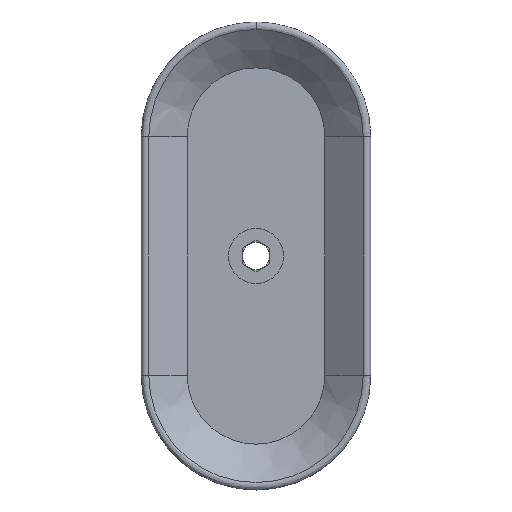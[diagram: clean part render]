
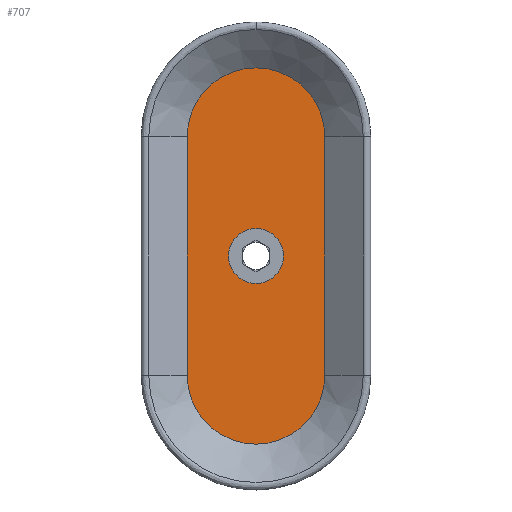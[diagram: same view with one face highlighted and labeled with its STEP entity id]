
A CAD part, front view. The second image highlights one B-rep face of the part: STEP entity #707.
In plain terms, the highlighted planar face has unit normal (0, -1, 0).
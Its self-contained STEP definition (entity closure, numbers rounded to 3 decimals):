
#2 = CIRCLE ( 'NONE', #1078, 15. ) ;
#97 = DIRECTION ( 'NONE',  ( 0., 1., 0. ) ) ;
#110 = PLANE ( 'NONE',  #2926 ) ;
#211 = CARTESIAN_POINT ( 'NONE',  ( -15., 5., 26. ) ) ;
#333 = ORIENTED_EDGE ( 'NONE', *, *, #373, .F. ) ;
#373 = EDGE_CURVE ( 'NONE', #4318, #5460, #2, .T. ) ;
#388 = CARTESIAN_POINT ( 'NONE',  ( -15., 5., -26. ) ) ;
#587 = LINE ( 'NONE', #5107, #7059 ) ;
#666 = CARTESIAN_POINT ( 'NONE',  ( 0., 5., 6. ) ) ;
#707 = ADVANCED_FACE ( 'NONE', ( #5853, #4184 ), #110, .T. ) ;
#718 = ORIENTED_EDGE ( 'NONE', *, *, #3973, .T. ) ;
#720 = ORIENTED_EDGE ( 'NONE', *, *, #2884, .T. ) ;
#726 = VERTEX_POINT ( 'NONE', #6506 ) ;
#824 = DIRECTION ( 'NONE',  ( 0., 0., -1. ) ) ;
#1036 = ORIENTED_EDGE ( 'NONE', *, *, #3777, .F. ) ;
#1066 = EDGE_LOOP ( 'NONE', ( #718, #6790 ) ) ;
#1078 = AXIS2_PLACEMENT_3D ( 'NONE', #7175, #6469, #6096 ) ;
#1349 = CARTESIAN_POINT ( 'NONE',  ( 0., 5., -6. ) ) ;
#1493 = CARTESIAN_POINT ( 'NONE',  ( 0., 5., 26. ) ) ;
#1598 = CARTESIAN_POINT ( 'NONE',  ( 0., 5., 0. ) ) ;
#1720 = CIRCLE ( 'NONE', #4444, 6. ) ;
#1735 = CIRCLE ( 'NONE', #4283, 15. ) ;
#1830 = EDGE_CURVE ( 'NONE', #5460, #7948, #1735, .T. ) ;
#2082 = DIRECTION ( 'NONE',  ( 0., 1., 0. ) ) ;
#2088 = DIRECTION ( 'NONE',  ( 0., 0., -1. ) ) ;
#2109 = ORIENTED_EDGE ( 'NONE', *, *, #4029, .T. ) ;
#2132 = DIRECTION ( 'NONE',  ( 0., 1., 0. ) ) ;
#2162 = VERTEX_POINT ( 'NONE', #666 ) ;
#2226 = DIRECTION ( 'NONE',  ( 0., 0., 1. ) ) ;
#2569 = AXIS2_PLACEMENT_3D ( 'NONE', #3824, #97, #4451 ) ;
#2588 = EDGE_LOOP ( 'NONE', ( #1036, #2109, #3470, #333, #720 ) ) ;
#2849 = CIRCLE ( 'NONE', #2569, 6. ) ;
#2884 = EDGE_CURVE ( 'NONE', #4318, #5918, #4177, .T. ) ;
#2926 = AXIS2_PLACEMENT_3D ( 'NONE', #1493, #5645, #2088 ) ;
#3134 = AXIS2_PLACEMENT_3D ( 'NONE', #5889, #2132, #6526 ) ;
#3158 = CIRCLE ( 'NONE', #3134, 15. ) ;
#3292 = EDGE_CURVE ( 'NONE', #7659, #2162, #1720, .T. ) ;
#3470 = ORIENTED_EDGE ( 'NONE', *, *, #1830, .F. ) ;
#3613 = CARTESIAN_POINT ( 'NONE',  ( -15., 5., 26. ) ) ;
#3777 = EDGE_CURVE ( 'NONE', #726, #5918, #3158, .T. ) ;
#3824 = CARTESIAN_POINT ( 'NONE',  ( 0., 5., 0. ) ) ;
#3973 = EDGE_CURVE ( 'NONE', #2162, #7659, #2849, .T. ) ;
#4029 = EDGE_CURVE ( 'NONE', #726, #7948, #587, .T. ) ;
#4177 = LINE ( 'NONE', #211, #5847 ) ;
#4184 = FACE_BOUND ( 'NONE', #1066, .T. ) ;
#4283 = AXIS2_PLACEMENT_3D ( 'NONE', #5835, #2082, #6472 ) ;
#4318 = VERTEX_POINT ( 'NONE', #3613 ) ;
#4444 = AXIS2_PLACEMENT_3D ( 'NONE', #1598, #5987, #2226 ) ;
#4451 = DIRECTION ( 'NONE',  ( 0., 0., 1. ) ) ;
#5107 = CARTESIAN_POINT ( 'NONE',  ( 15., 5., -26. ) ) ;
#5460 = VERTEX_POINT ( 'NONE', #7742 ) ;
#5645 = DIRECTION ( 'NONE',  ( 0., -1., 0. ) ) ;
#5835 = CARTESIAN_POINT ( 'NONE',  ( 0., 5., 26. ) ) ;
#5847 = VECTOR ( 'NONE', #824, 1000. ) ;
#5853 = FACE_OUTER_BOUND ( 'NONE', #2588, .T. ) ;
#5889 = CARTESIAN_POINT ( 'NONE',  ( 0., 5., -26. ) ) ;
#5918 = VERTEX_POINT ( 'NONE', #388 ) ;
#5987 = DIRECTION ( 'NONE',  ( 0., 1., 0. ) ) ;
#6096 = DIRECTION ( 'NONE',  ( 0., 0., 1. ) ) ;
#6382 = DIRECTION ( 'NONE',  ( 0., 0., 1. ) ) ;
#6469 = DIRECTION ( 'NONE',  ( 0., 1., 0. ) ) ;
#6472 = DIRECTION ( 'NONE',  ( 0., 0., 1. ) ) ;
#6506 = CARTESIAN_POINT ( 'NONE',  ( 15., 5., -26. ) ) ;
#6526 = DIRECTION ( 'NONE',  ( 0., 0., 1. ) ) ;
#6790 = ORIENTED_EDGE ( 'NONE', *, *, #3292, .T. ) ;
#7059 = VECTOR ( 'NONE', #6382, 1000. ) ;
#7152 = CARTESIAN_POINT ( 'NONE',  ( 15., 5., 26. ) ) ;
#7175 = CARTESIAN_POINT ( 'NONE',  ( 0., 5., 26. ) ) ;
#7659 = VERTEX_POINT ( 'NONE', #1349 ) ;
#7742 = CARTESIAN_POINT ( 'NONE',  ( 0., 5., 41. ) ) ;
#7948 = VERTEX_POINT ( 'NONE', #7152 ) ;
